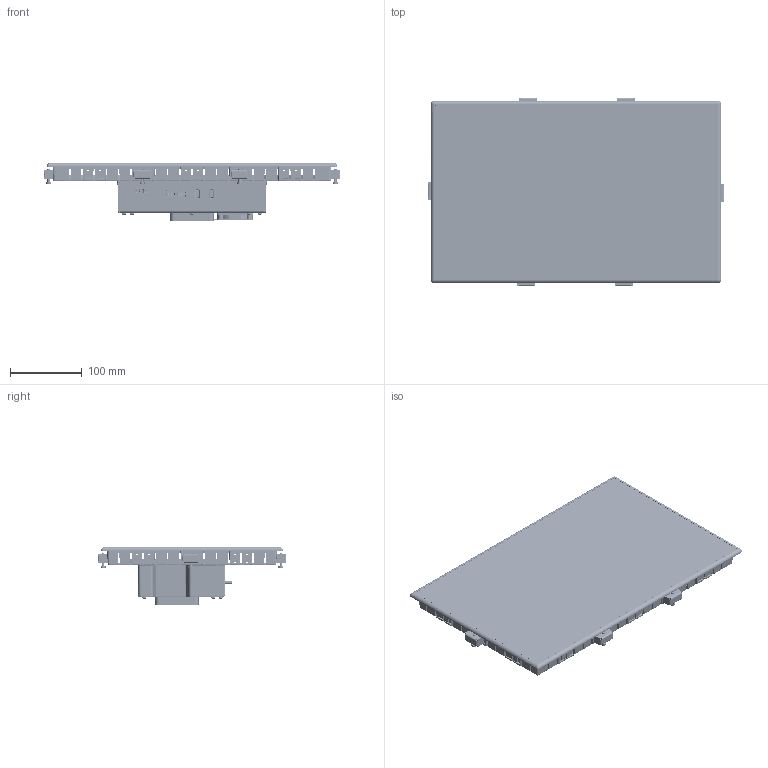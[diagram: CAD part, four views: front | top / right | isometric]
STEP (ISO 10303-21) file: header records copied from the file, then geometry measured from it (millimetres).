
FILE_DESCRIPTION(/* description */ (''),/* implementation_level */ '2;1');
FILE_NAME(/* name */ 'B-Primis DC-Pi Prime 15_S02.stp',/* time_stamp */ '2025-12-02T13:56:42+01:00',/* author */ ('Werres'),/* organization */ (''),/* preprocessor_version */ 'ST-DEVELOPER v20.1',/* originating_system */ 'Autodesk Inventor 2026',/* authorisation */ '');
FILE_SCHEMA (('AUTOMOTIVE_DESIGN { 1 0 10303 214 3 1 1 }'));
Products named in the file (1): B-Primis DC-Pi Prime 15_S02_Vereinfacht_
Bounding box: 412.98 x 262.01 x 80.8 mm (x, y, z)
Volume: 711584.6 mm3; surface area: 698794.6 mm2
Topology: 13 solids, 49 shells, 10468 faces, 30142 edges, 19545 vertices
Faces by surface type: plane 7592, cylinder 2466, cone 208, bspline 118, sphere 45, torus 39
Full cylindrical faces by diameter (mm): 0.6 x34, 0.65 x2, 0.783 x4, 1 x3, 1.8 x16, 2 x2, 2.2 x2, 2.3 x1, 2.459 x9, 3 x21, 3.3 x4, 3.4 x3, 3.5 x14, 3.7 x4, 4 x21, 4.3 x10, 4.9 x6, 5.5 x1, 6 x15, 6.5 x1, 7 x6, 8 x4, 15 x1, 47.5 x1
Entity records: 357073 total; most frequent: CARTESIAN_POINT 78394, ORIENTED_EDGE 60288, DIRECTION 55254, EDGE_CURVE 30144, LINE 23642, VECTOR 23642, VERTEX_POINT 19545, AXIS2_PLACEMENT_3D 15806
